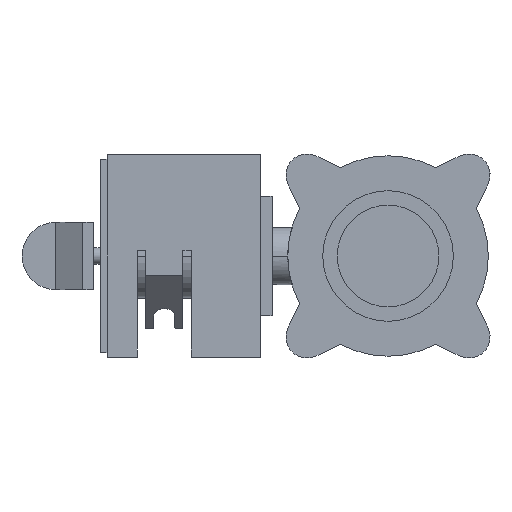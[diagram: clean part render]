
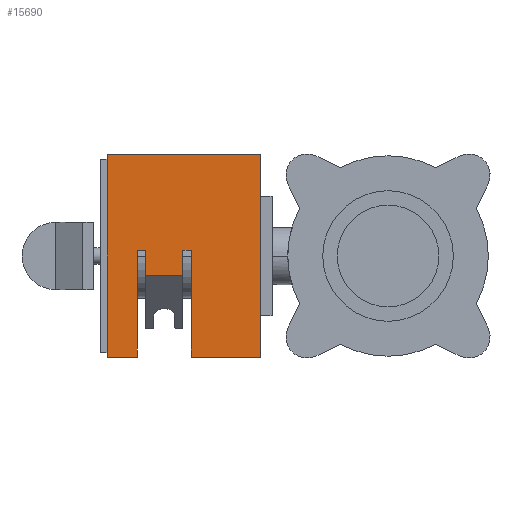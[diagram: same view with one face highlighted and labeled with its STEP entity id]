
A CAD part, left-side view. The second image highlights one B-rep face of the part: STEP entity #15690.
In plain terms, the highlighted planar face has unit normal (-1, 0, 0).
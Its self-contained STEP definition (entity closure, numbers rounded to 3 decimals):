
#120=CARTESIAN_POINT('',(-70.,8.5,-11.418));
#130=VERTEX_POINT('',#120);
#610=CARTESIAN_POINT('',(-70.,30.5,-11.418));
#620=VERTEX_POINT('',#610);
#650=CARTESIAN_POINT('',(-70.,0.,-11.418));
#660=DIRECTION('',(0.,-1.,0.));
#670=VECTOR('',#660,1.);
#680=LINE('',#650,#670);
#690=EDGE_CURVE('',#620,#130,#680,.T.);
#930=CARTESIAN_POINT('',(-70.,35.5,3.5));
#940=VERTEX_POINT('',#930);
#970=CARTESIAN_POINT('',(-70.,0.,3.5));
#980=DIRECTION('',(0.,-1.,0.));
#990=VECTOR('',#980,1.);
#1000=LINE('',#970,#990);
#1010=CARTESIAN_POINT('',(-70.,30.5,3.5));
#1020=VERTEX_POINT('',#1010);
#1030=EDGE_CURVE('',#940,#1020,#1000,.T.);
#1230=CARTESIAN_POINT('',(-70.,53.5,-60.));
#1240=VERTEX_POINT('',#1230);
#1410=CARTESIAN_POINT('',(-70.,53.5,60.));
#1420=VERTEX_POINT('',#1410);
#1450=CARTESIAN_POINT('',(-70.,53.5,0.));
#1460=DIRECTION('',(0.,0.,-1.));
#1470=VECTOR('',#1460,1.);
#1480=LINE('',#1450,#1470);
#1490=EDGE_CURVE('',#1420,#1240,#1480,.T.);
#2310=CARTESIAN_POINT('',(-70.,-37.5,-60.));
#2320=VERTEX_POINT('',#2310);
#2350=CARTESIAN_POINT('',(-70.,-37.5,0.));
#2360=DIRECTION('',(0.,0.,1.));
#2370=VECTOR('',#2360,1.);
#2380=LINE('',#2350,#2370);
#2390=CARTESIAN_POINT('',(-70.,-37.5,60.));
#2400=VERTEX_POINT('',#2390);
#2410=EDGE_CURVE('',#2320,#2400,#2380,.T.);
#2900=CARTESIAN_POINT('',(-70.,0.,60.));
#2910=DIRECTION('',(0.,-1.,0.));
#2920=VECTOR('',#2910,1.);
#2930=LINE('',#2900,#2920);
#2940=EDGE_CURVE('',#1420,#2400,#2930,.T.);
#3510=CARTESIAN_POINT('',(-70.,0.,-60.));
#3520=DIRECTION('',(0.,-1.,0.));
#3530=VECTOR('',#3520,1.);
#3540=LINE('',#3510,#3530);
#3550=CARTESIAN_POINT('',(-70.,35.5,-60.));
#3560=VERTEX_POINT('',#3550);
#3570=EDGE_CURVE('',#1240,#3560,#3540,.T.);
#8280=CARTESIAN_POINT('',(-70.,0.,3.5));
#8290=DIRECTION('',(0.,-1.,0.));
#8300=VECTOR('',#8290,1.);
#8310=LINE('',#8280,#8300);
#8320=CARTESIAN_POINT('',(-70.,8.5,3.5));
#8330=VERTEX_POINT('',#8320);
#8340=CARTESIAN_POINT('',(-70.,3.5,3.5));
#8350=VERTEX_POINT('',#8340);
#8360=EDGE_CURVE('',#8330,#8350,#8310,.T.);
#9490=CARTESIAN_POINT('',(-70.,30.5,0.));
#9500=DIRECTION('',(0.,0.,1.));
#9510=VECTOR('',#9500,1.);
#9520=LINE('',#9490,#9510);
#9530=EDGE_CURVE('',#620,#1020,#9520,.T.);
#10540=CARTESIAN_POINT('',(-70.,8.5,0.));
#10550=DIRECTION('',(0.,0.,-1.));
#10560=VECTOR('',#10550,1.);
#10570=LINE('',#10540,#10560);
#10580=EDGE_CURVE('',#8330,#130,#10570,.T.);
#12410=CARTESIAN_POINT('',(-70.,35.5,0.));
#12420=DIRECTION('',(0.,0.,1.));
#12430=VECTOR('',#12420,1.);
#12440=LINE('',#12410,#12430);
#12450=EDGE_CURVE('',#3560,#940,#12440,.T.);
#14630=CARTESIAN_POINT('',(-70.,0.,-60.));
#14640=DIRECTION('',(0.,-1.,0.));
#14650=VECTOR('',#14640,1.);
#14660=LINE('',#14630,#14650);
#14670=CARTESIAN_POINT('',(-70.,3.5,-60.));
#14680=VERTEX_POINT('',#14670);
#14690=EDGE_CURVE('',#14680,#2320,#14660,.T.);
#15260=CARTESIAN_POINT('',(-70.,3.5,0.));
#15270=DIRECTION('',(0.,0.,-1.));
#15280=VECTOR('',#15270,1.);
#15290=LINE('',#15260,#15280);
#15300=EDGE_CURVE('',#8350,#14680,#15290,.T.);
#15500=CARTESIAN_POINT('',(-70.,48.5,50.));
#15510=DIRECTION('',(1.,0.,0.));
#15520=DIRECTION('',(0.,0.,-1.));
#15530=AXIS2_PLACEMENT_3D('',#15500,#15510,#15520);
#15540=PLANE('',#15530);
#15550=ORIENTED_EDGE('',*,*,#9530,.F.);
#15560=ORIENTED_EDGE('',*,*,#1030,.T.);
#15570=ORIENTED_EDGE('',*,*,#12450,.T.);
#15580=ORIENTED_EDGE('',*,*,#3570,.T.);
#15590=ORIENTED_EDGE('',*,*,#1490,.T.);
#15600=ORIENTED_EDGE('',*,*,#2940,.F.);
#15610=ORIENTED_EDGE('',*,*,#2410,.T.);
#15620=ORIENTED_EDGE('',*,*,#14690,.T.);
#15630=ORIENTED_EDGE('',*,*,#15300,.T.);
#15640=ORIENTED_EDGE('',*,*,#8360,.T.);
#15650=ORIENTED_EDGE('',*,*,#10580,.F.);
#15660=ORIENTED_EDGE('',*,*,#690,.T.);
#15670=EDGE_LOOP('',(#15660,#15650,#15640,#15630,#15620,#15610,#15600,
#15590,#15580,#15570,#15560,#15550));
#15680=FACE_OUTER_BOUND('',#15670,.T.);
#15690=ADVANCED_FACE('',(#15680),#15540,.F.);
